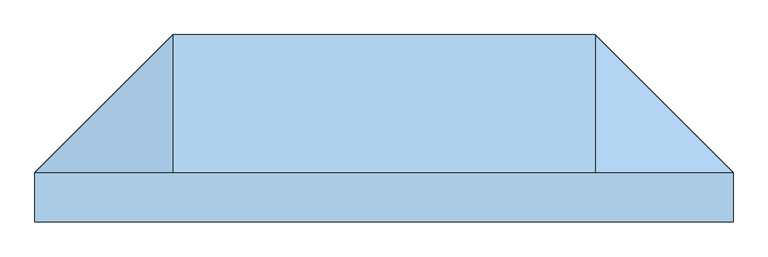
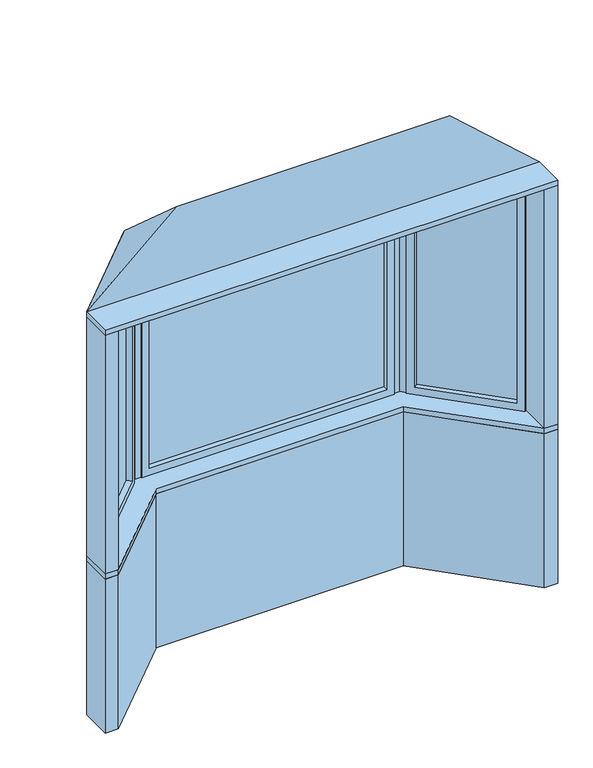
"""IFC4 building model written with IfcOpenShell, lengths in millimetres: window geometry, Pollard_Windows_Tudor Casement Bows and Bays : AML-BAY 45 AFR0612-10-500."""

from ifc_helpers import new_model, si_unit, frame, origin, origin_with_axes, place, context, project, spatial, polyline, outline, extrude, faceted_brep, source, transform, mapped, element, save


def window_b54664bb(model_context):
    return source(origin(), model_context, "Body", "SolidModel", [
        extrude(outline(polyline([(1010.5964271, 104.763169), (1007.0043247, 101.1710666), (681.2327115, 426.9426797), (684.824814, 430.5347822), (1010.5964271, 104.763169)])), frame((0.0, 0.0, 823.1628), z_axis=(0.0, 0.0, 1.0), x_axis=(1.0, 0.0, 0.0)), (0.0, 0.0, 1.0), 1153.6704),
        faceted_brep([(1001.616171, 113.7434252, 835.8628), (1001.616171, 113.7434252, 1964.1332), (1019.5766833, 131.7039374, 1964.1332), (1019.5766833, 131.7039374, 835.8628), (1007.0043247, 101.1710666, 823.1628), (1007.0043247, 101.1710666, 1976.8332), (1010.5964271, 104.763169, 1976.8332), (1010.5964271, 104.763169, 823.1628), (980.0635563, 92.1908105, 835.8628), (980.0635563, 92.1908105, 1964.1332), (998.0240686, 110.1513227, 1964.1332), (998.0240686, 110.1513227, 835.8628), (1044.9369265, 106.3436941, 799.998), (1044.9369265, 106.3436941, 1999.998), (1005.4237996, 66.8305672, 1999.998), (1005.4237996, 66.8305672, 799.998), (693.8050701, 421.5545261, 1964.1332), (711.7655823, 439.5150383, 1964.1332), (681.2327115, 426.9426797, 1976.8332), (684.824814, 430.5347822, 1976.8332), (672.2524554, 400.0019114, 1964.1332), (690.2129677, 417.9624236, 1964.1332), (686.4053391, 464.8752816, 1999.998), (646.8922121, 425.3621547, 1999.998), (693.8050701, 421.5545261, 835.8628), (711.7655823, 439.5150383, 835.8628), (681.2327115, 426.9426797, 823.1628), (684.824814, 430.5347822, 823.1628), (672.2524554, 400.0019114, 835.8628), (690.2129677, 417.9624236, 835.8628), (686.4053391, 464.8752816, 799.998), (646.8922121, 425.3621547, 799.998)], [[[0, 1, 2, 3]], [[4, 5, 6, 7]], [[8, 9, 10, 11]], [[12, 13, 14, 15]], [[1, 16, 17, 2]], [[5, 18, 19, 6]], [[9, 20, 21, 10]], [[13, 22, 23, 14]], [[16, 24, 25, 17]], [[18, 26, 27, 19]], [[20, 28, 29, 21]], [[22, 30, 31, 23]], [[24, 0, 3, 25]], [[7, 6, 19, 27], [1, 0, 24, 16]], [[26, 4, 7, 27]], [[5, 4, 26, 18], [11, 10, 21, 29]], [[28, 8, 11, 29]], [[15, 14, 23, 31], [9, 8, 28, 20]], [[30, 12, 15, 31]], [[13, 12, 30, 22], [3, 2, 17, 25]]]),
        extrude(outline(polyline([(-684.824814, 430.5347822), (-681.2327115, 426.9426797), (-1007.0043247, 101.1710666), (-1010.5964271, 104.763169), (-684.824814, 430.5347822)])), frame((0.0, 0.0, 823.1628), z_axis=(0.0, 0.0, 1.0), x_axis=(1.0, 0.0, 0.0)), (0.0, 0.0, 1.0), 1153.6704),
        faceted_brep([(-690.2129677, 417.9624236, 1964.1332), (-690.2129677, 417.9624236, 835.8628), (-672.2524554, 400.0019114, 835.8628), (-672.2524554, 400.0019114, 1964.1332), (-684.824814, 430.5347822, 1976.8332), (-684.824814, 430.5347822, 823.1628), (-681.2327115, 426.9426797, 823.1628), (-681.2327115, 426.9426797, 1976.8332), (-711.7655823, 439.5150383, 1964.1332), (-711.7655823, 439.5150383, 835.8628), (-693.8050701, 421.5545261, 835.8628), (-693.8050701, 421.5545261, 1964.1332), (-646.8922121, 425.3621547, 1999.998), (-646.8922121, 425.3621547, 799.998), (-686.4053391, 464.8752816, 799.998), (-686.4053391, 464.8752816, 1999.998), (-998.0240686, 110.1513227, 835.8628), (-980.0635563, 92.1908105, 835.8628), (-1010.5964271, 104.763169, 823.1628), (-1007.0043247, 101.1710666, 823.1628), (-1019.5766833, 131.7039374, 835.8628), (-1001.616171, 113.7434252, 835.8628), (-1005.4237996, 66.8305672, 799.998), (-1044.9369265, 106.3436941, 799.998), (-998.0240686, 110.1513227, 1964.1332), (-980.0635563, 92.1908105, 1964.1332), (-1010.5964271, 104.763169, 1976.8332), (-1007.0043247, 101.1710666, 1976.8332), (-1019.5766833, 131.7039374, 1964.1332), (-1001.616171, 113.7434252, 1964.1332), (-1005.4237996, 66.8305672, 1999.998), (-1044.9369265, 106.3436941, 1999.998)], [[[0, 1, 2, 3]], [[4, 5, 6, 7]], [[8, 9, 10, 11]], [[12, 13, 14, 15]], [[1, 16, 17, 2]], [[5, 18, 19, 6]], [[9, 20, 21, 10]], [[13, 22, 23, 14]], [[16, 24, 25, 17]], [[18, 26, 27, 19]], [[20, 28, 29, 21]], [[22, 30, 31, 23]], [[13, 12, 30, 22], [3, 2, 17, 25]], [[24, 0, 3, 25]], [[7, 6, 19, 27], [1, 0, 24, 16]], [[26, 4, 7, 27]], [[5, 4, 26, 18], [11, 10, 21, 29]], [[28, 8, 11, 29]], [[15, 14, 23, 31], [9, 8, 28, 20]], [[30, 12, 15, 31]]]),
        extrude(outline(polyline([(577.8852, 474.8306207), (577.8852, 469.7506207), (-577.8852, 469.7506207), (-577.8852, 474.8306207), (577.8852, 474.8306207)])), frame((0.0, 0.0, 823.1628), z_axis=(0.0, 0.0, 1.0), x_axis=(1.0, 0.0, 0.0)), (0.0, 0.0, 1.0), 1153.6704),
        faceted_brep([(565.1852, 474.8306207, 835.8628), (565.1852, 474.8306207, 1964.1332), (565.1852, 500.2306207, 1964.1332), (565.1852, 500.2306207, 835.8628), (577.8852, 469.7506207, 823.1628), (577.8852, 469.7506207, 1976.8332), (577.8852, 474.8306207, 1976.8332), (577.8852, 474.8306207, 823.1628), (565.1852, 444.3506207, 835.8628), (565.1852, 444.3506207, 1964.1332), (565.1852, 469.7506207, 1964.1332), (565.1852, 469.7506207, 835.8628), (601.05, 500.2306207, 799.998), (601.05, 500.2306207, 1999.998), (601.05, 444.3506207, 1999.998), (601.05, 444.3506207, 799.998), (-565.1852, 474.8306207, 1964.1332), (-565.1852, 500.2306207, 1964.1332), (-577.8852, 469.7506207, 1976.8332), (-577.8852, 474.8306207, 1976.8332), (-565.1852, 444.3506207, 1964.1332), (-565.1852, 469.7506207, 1964.1332), (-601.05, 500.2306207, 1999.998), (-601.05, 444.3506207, 1999.998), (-565.1852, 474.8306207, 835.8628), (-565.1852, 500.2306207, 835.8628), (-577.8852, 469.7506207, 823.1628), (-577.8852, 474.8306207, 823.1628), (-565.1852, 444.3506207, 835.8628), (-565.1852, 469.7506207, 835.8628), (-601.05, 500.2306207, 799.998), (-601.05, 444.3506207, 799.998)], [[[0, 1, 2, 3]], [[4, 5, 6, 7]], [[8, 9, 10, 11]], [[12, 13, 14, 15]], [[1, 16, 17, 2]], [[5, 18, 19, 6]], [[9, 20, 21, 10]], [[13, 22, 23, 14]], [[16, 24, 25, 17]], [[18, 26, 27, 19]], [[20, 28, 29, 21]], [[22, 30, 31, 23]], [[13, 12, 30, 22], [3, 2, 17, 25]], [[24, 0, 3, 25]], [[7, 6, 19, 27], [1, 0, 24, 16]], [[26, 4, 7, 27]], [[5, 4, 26, 18], [11, 10, 21, 29]], [[28, 8, 11, 29]], [[15, 14, 23, 31], [9, 8, 28, 20]], [[30, 12, 15, 31]]]),
        faceted_brep([(1076.5, 74.7806207, 2025.398), (-1076.5, 74.7806207, 2025.398), (-651.05, 500.2306207, 2025.398), (651.05, 500.2306207, 2025.398), (-651.05, 74.7806207, 2406.398), (651.05, 74.7806207, 2406.398)], [[[0, 1, 2, 3]], [[1, 4, 2]], [[2, 4, 5, 3]], [[3, 5, 0]], [[0, 5, 4, 1]]]),
        extrude(outline(polyline([(-1076.5, -77.6193793), (-1076.5, 74.7806207), (-651.05, 500.2306207), (651.05, 500.2306207), (1076.5, 74.7806207), (1076.5, -77.6193793), (-1076.5, -77.6193793)])), frame((0.0, 0.0, 1999.998), z_axis=(0.0, 0.0, 1.0), x_axis=(1.0, 0.0, 0.0)), (0.0, 0.0, 1.0), 25.4),
        extrude(outline(polyline([(-1076.5, 74.7806207), (-1044.9369265, 106.3436941), (-1013.3738531, 74.7806207), (-1013.3738531, -77.6193793), (-1076.5, -77.6193793), (-1076.5, 74.7806207)])), frame((0.0, 0.0, 799.998), z_axis=(0.0, 0.0, 1.0), x_axis=(1.0, 0.0, 0.0)), (0.0, 0.0, 1.0), 1200.0),
        extrude(outline(polyline([(1076.5, -77.6193793), (1013.3738531, -77.6193793), (1013.3738531, 74.7806207), (1044.9369265, 106.3436941), (1076.5, 74.7806207), (1076.5, -77.6193793)])), frame((0.0, 0.0, 799.998), z_axis=(0.0, 0.0, 1.0), x_axis=(1.0, 0.0, 0.0)), (0.0, 0.0, 1.0), 1200.0),
        extrude(outline(polyline([(651.05, 500.2306207), (686.4053391, 464.8752816), (651.05, 429.5199425), (630.3393219, 450.2306207), (601.05, 450.2306207), (601.05, 500.2306207), (651.05, 500.2306207)])), frame((0.0, 0.0, 799.998), z_axis=(0.0, 0.0, 1.0), x_axis=(1.0, 0.0, 0.0)), (0.0, 0.0, 1.0), 1200.0),
        extrude(outline(polyline([(-651.05, 500.2306207), (-601.05, 500.2306207), (-601.05, 450.2306207), (-630.3393219, 450.2306207), (-651.05, 429.5199425), (-686.4053391, 464.8752816), (-651.05, 500.2306207)])), frame((0.0, 0.0, 799.998), z_axis=(0.0, 0.0, 1.0), x_axis=(1.0, 0.0, 0.0)), (0.0, 0.0, 1.0), 1200.0),
        extrude(outline(polyline([(-651.05, 500.2306207), (651.05, 500.2306207), (1076.5, 74.7806207), (1076.5, -77.6193793), (1013.3738531, -77.6193793), (587.9238531, 347.8306207), (-587.9238531, 347.8306207), (-1013.3738531, -77.6193793), (-1076.5, -77.6193793), (-1076.5, 74.7806207), (-651.05, 500.2306207)])), frame((0.0, 0.0, 774.598), z_axis=(0.0, 0.0, 1.0), x_axis=(1.0, 0.0, 0.0)), (0.0, 0.0, 1.0), 25.4),
        extrude(outline(polyline([(-1076.5, 74.7806207), (-651.05, 500.2306207), (651.05, 500.2306207), (1076.5, 74.7806207), (1076.5, -77.6193793), (1013.3738531, -77.6193793), (587.9238531, 347.8306207), (-587.9238531, 347.8306207), (-1013.3738531, -77.6193793), (-1076.5, -77.6193793), (-1076.5, 74.7806207)])), origin_with_axes(), (0.0, 0.0, 1.0), 774.598),
    ])


if __name__ == "__main__":
    model = new_model("IFC4")
    model_context = context("Model", 3, world=origin())
    ifc_project = project(units=[si_unit("LENGTHUNIT", "METRE", prefix="MILLI")], contexts=[model_context])
    site = spatial("IfcSite", under=ifc_project)
    building = spatial("IfcBuilding", under=site)
    placement = place(None, origin())
    window_shape = window_b54664bb(model_context)
    element("IfcWindow", 1, ObjectType="Pollard_Windows_Tudor Casement Bows and Bays : AML-BAY 45 AFR0612-10-500", at=placement, inside=building, context=model_context, shape_type="MappedRepresentation", body=[
        mapped(window_shape, transform((0.0, 0.0, 0.0), x_axis=(1.0, 0.0, 0.0), y_axis=(0.0, 1.0, 0.0), z_axis=(0.0, 0.0, 1.0))),
    ])
    save(model, "model.ifc")
